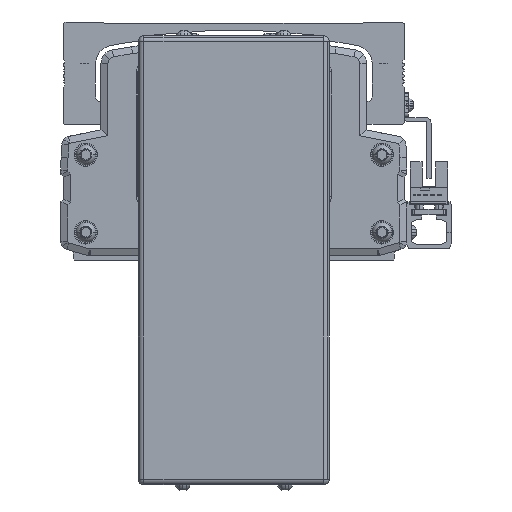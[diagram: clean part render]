
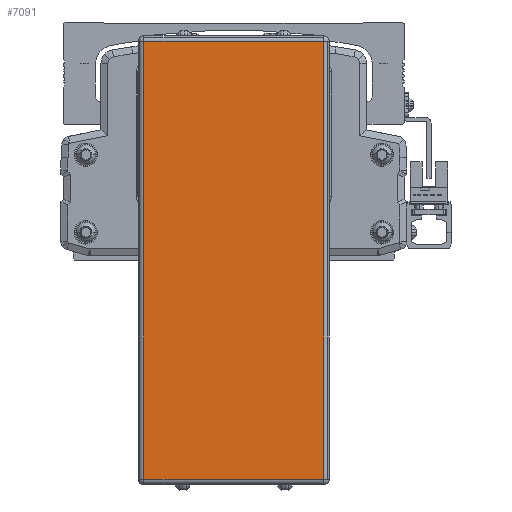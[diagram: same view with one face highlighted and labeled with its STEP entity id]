
A CAD part, front view. The second image highlights one B-rep face of the part: STEP entity #7091.
In plain terms, the highlighted planar face has unit normal (0, -1, 0).
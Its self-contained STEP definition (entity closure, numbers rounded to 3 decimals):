
#7091=ADVANCED_FACE('',(#14816),#14817,.T.);
#14816=FACE_OUTER_BOUND('',#24632,.T.);
#14817=PLANE('',#24633);
#24632=EDGE_LOOP('',(#44752,#44753,#44754,#44755));
#24633=AXIS2_PLACEMENT_3D('',#44756,#44757,#44758);
#44752=ORIENTED_EDGE('',*,*,#58041,.F.);
#44753=ORIENTED_EDGE('',*,*,#60089,.F.);
#44754=ORIENTED_EDGE('',*,*,#60188,.F.);
#44755=ORIENTED_EDGE('',*,*,#60189,.F.);
#44756=CARTESIAN_POINT('',(-299.996,-513.778,-49.1));
#44757=DIRECTION('',(0.,-1.0,0.));
#44758=DIRECTION('',(1.0,0.,0.));
#58041=EDGE_CURVE('',#68400,#71251,#71252,.T.);
#60089=EDGE_CURVE('',#74015,#68400,#74017,.T.);
#60188=EDGE_CURVE('',#73876,#74015,#74155,.T.);
#60189=EDGE_CURVE('',#71251,#73876,#74156,.T.);
#68400=VERTEX_POINT('',#85535);
#71251=VERTEX_POINT('',#89641);
#71252=LINE('',#89642,#89643);
#73876=VERTEX_POINT('',#93385);
#74015=VERTEX_POINT('',#93581);
#74017=LINE('',#93583,#93584);
#74155=LINE('',#93805,#93806);
#74156=LINE('',#93807,#93808);
#85535=CARTESIAN_POINT('',(-267.496,-513.778,30.));
#89641=CARTESIAN_POINT('',(-267.496,-513.778,-128.2));
#89642=CARTESIAN_POINT('',(-267.496,-513.778,-49.1));
#89643=VECTOR('',#104152,10.0);
#93385=CARTESIAN_POINT('',(-332.496,-513.778,-128.2));
#93581=CARTESIAN_POINT('',(-332.496,-513.778,30.));
#93583=CARTESIAN_POINT('',(-299.996,-513.778,30.));
#93584=VECTOR('',#106425,10.0);
#93805=CARTESIAN_POINT('',(-332.496,-513.778,-49.1));
#93806=VECTOR('',#106509,10.0);
#93807=CARTESIAN_POINT('',(-299.996,-513.778,-128.2));
#93808=VECTOR('',#106510,10.0);
#104152=DIRECTION('',(0.0,0.,-1.0));
#106425=DIRECTION('',(1.0,0.,0.));
#106509=DIRECTION('',(0.0,0.,1.0));
#106510=DIRECTION('',(-1.0,0.,0.));
